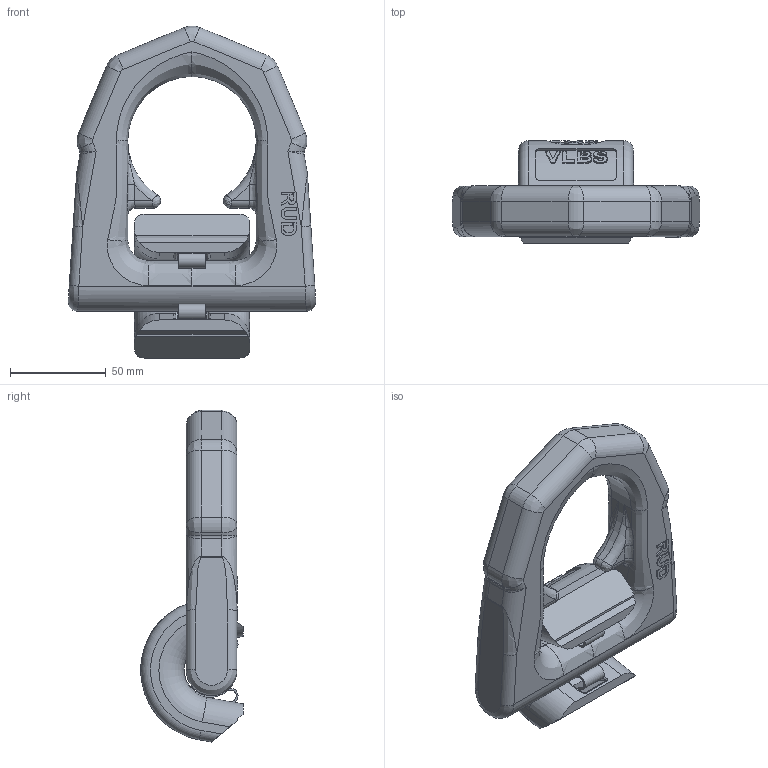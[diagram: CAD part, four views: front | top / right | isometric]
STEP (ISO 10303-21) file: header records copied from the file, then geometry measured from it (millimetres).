
FILE_DESCRIPTION((''),'2;1');
FILE_NAME('001-M32121-P5_ASM','2017-10-18T',('anja.joas'),(''),'PRO/ENGINEER BY PARAMETRIC TECHNOLOGY CORPORATION, 2011490','PRO/ENGINEER BY PARAMETRIC TECHNOLOGY CORPORATION, 2011490','');
FILE_SCHEMA(('CONFIG_CONTROL_DESIGN'));
Length unit declared in the file: millimetre
Products named in the file (4): 001-M32121-P6; 001-M34887-P01; 001-M31417-P-1; 001-M32121-P5_ASM
Assembly tree (3 placements, depth 2):
  001-M32121-P5_ASM
    001-M32121-P6
    001-M34887-P01
    001-M31417-P-1
Bounding box: 129.17 x 53.43 x 173.22 mm (x, y, z)
Volume: 368824.2 mm3; surface area: 60556.3 mm2
Topology: 3 solids, 3 shells, 553 faces, 1450 edges, 924 vertices
Faces by surface type: plane 280, cylinder 120, extrusion 73, bspline 60, torus 16, sphere 4
Entity records: 35193 total; most frequent: CARTESIAN_POINT 22260, ORIENTED_EDGE 2900, DIRECTION 2275, EDGE_CURVE 1450, VERTEX_POINT 924, VECTOR 859, LINE 786, AXIS2_PLACEMENT_3D 708
